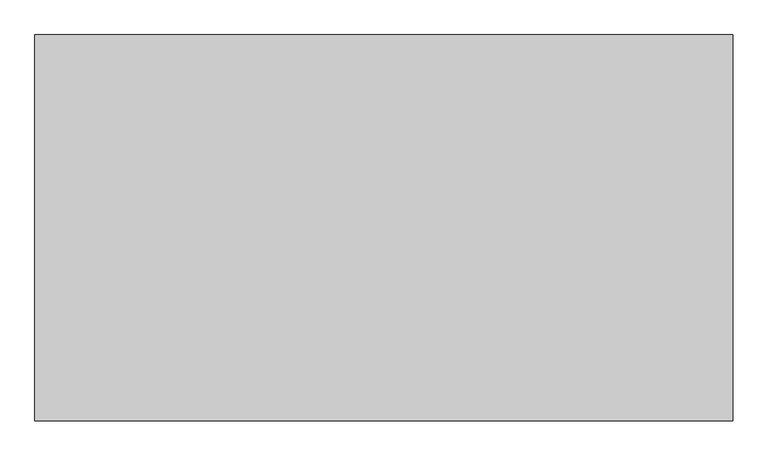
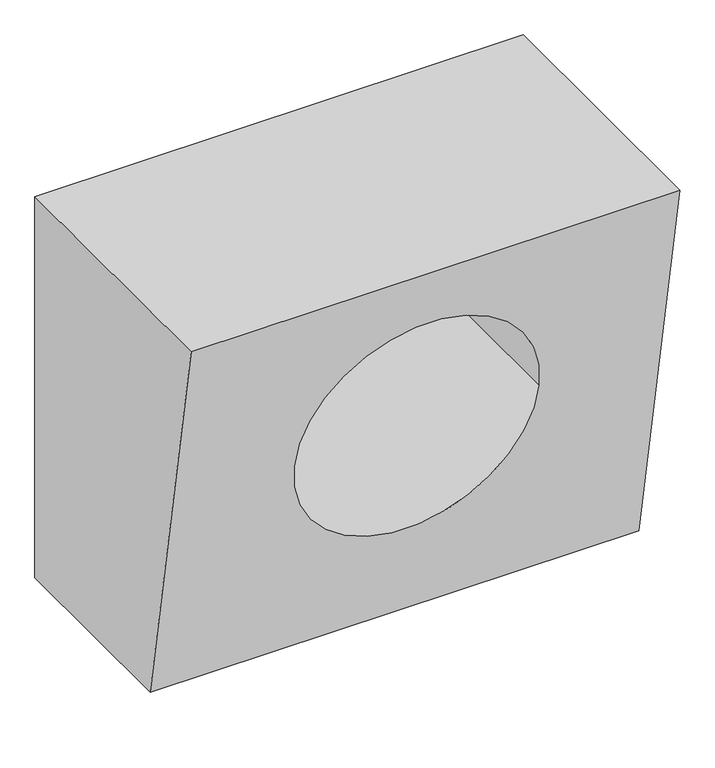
"""IFC4 building model written with IfcOpenShell, lengths in millimetres: proxy geometry, 族2 : 族2."""

import ifcopenshell
import ifcopenshell.guid

model = None  # the IFC model being written
_history = None  # IfcOwnerHistory: only IFC2X3 demands one
_inside = {}  # id of a spatial element -> (the spatial element, [elements in it])
_under = {}  # id of a project, library or spatial element -> (it, [spatial elements below it])
_declared = {}  # id of a project -> (the project, [libraries it declares])
_typed = {}  # id of a type object -> (the type object, [elements of that type])
_made_of = {}  # id of a material, layer set ... -> (it, [elements and type objects made of it])


def new_model(schema):
    """Start an empty IFC model of exactly this schema.

    Asked for "IFC4X3", IfcOpenShell would pick the latest addendum, in which some entities
    have other attributes; the version numbers below select the first issue.
    IFC2X3 requires an IfcOwnerHistory on every rooted entity: one is made here for all.
    """
    global model, _history
    if schema == "IFC4X3":
        model = ifcopenshell.file(schema_version=(4, 3, 0, 0))
    else:
        model = ifcopenshell.file(schema=schema)
    _inside.clear()
    _under.clear()
    _declared.clear()
    _typed.clear()
    _made_of.clear()
    _history = None
    if model.schema == "IFC2X3":
        org = make("IfcOrganization", Name="unknown")
        user = make(
            "IfcPersonAndOrganization",
            ThePerson=make("IfcPerson", FamilyName="unknown"),
            TheOrganization=org,
        )
        app = make(
            "IfcApplication",
            ApplicationDeveloper=org,
            Version="unknown",
            ApplicationFullName="unknown",
            ApplicationIdentifier="unknown",
        )
        _history = make(
            "IfcOwnerHistory",
            OwningUser=user,
            OwningApplication=app,
            ChangeAction="ADDED",
            CreationDate=0,
        )
    return model


def make(cls, **values):
    """One entity of the class cls with the attributes given. An attribute that is None is left unset."""
    return model.create_entity(
        cls, **{name: value for name, value in values.items() if value is not None}
    )


def rooted(cls, **values):
    """An entity with a GlobalId (a new one), such as an element, a storey or a relation."""
    return make(cls, GlobalId=ifcopenshell.guid.new(), OwnerHistory=_history, **values)


def si_unit(unit_type, name, prefix=None):
    """IfcSIUnit, for example si_unit("LENGTHUNIT", "METRE", prefix="MILLI")."""
    return make("IfcSIUnit", UnitType=unit_type, Prefix=prefix, Name=name)


def assignment(units):
    """IfcUnitAssignment: the units of a project."""
    return None if units is None else make("IfcUnitAssignment", Units=units)


def point(xyz):
    """IfcCartesianPoint."""
    return None if xyz is None else make("IfcCartesianPoint", Coordinates=xyz)


def direction(xyz):
    """IfcDirection."""
    return None if xyz is None else make("IfcDirection", DirectionRatios=xyz)


def frame(location, z_axis=None, x_axis=None):
    """IfcAxis2Placement3D, a coordinate frame: its origin and axes. An axis left out is left unset."""
    return make(
        "IfcAxis2Placement3D",
        Location=point(location),
        Axis=direction(z_axis),
        RefDirection=direction(x_axis),
    )


def origin():
    """The frame at (0, 0, 0) with its axes left unset."""
    return frame((0.0, 0.0, 0.0))


def place(relative_to, where):
    """IfcLocalPlacement: puts the frame where relative to a parent placement (None: the world)."""
    return make(
        "IfcLocalPlacement", PlacementRelTo=relative_to, RelativePlacement=where
    )


def context(
    kind, dimensions, precision=None, world=None, true_north=None, identifier=None
):
    """IfcGeometricRepresentationContext, for example the 3D "Model" context."""
    return make(
        "IfcGeometricRepresentationContext",
        ContextIdentifier=identifier,
        ContextType=kind,
        CoordinateSpaceDimension=dimensions,
        Precision=precision,
        WorldCoordinateSystem=world,
        TrueNorth=true_north,
    )


def project(units=None, contexts=None):
    """IfcProject with its units and contexts."""
    return rooted(
        "IfcProject",
        Name="project",
        RepresentationContexts=contexts,
        UnitsInContext=assignment(units),
    )


def spatial(cls, under=None, at=None, **own):
    """A site, building, storey or space (cls), placed at a placement, below another one or the project."""
    s = rooted(cls, ObjectPlacement=at, **own)
    if under is not None:
        _under.setdefault(under.id(), (under, []))[1].append(s)
    return s


def polyline(points):
    """IfcPolyline through the points."""
    return make("IfcPolyline", Points=[point(p) for p in points])


def circle_curve(where, radius):
    """IfcCircle in the frame where."""
    return make("IfcCircle", Position=where, Radius=radius)


def ellipse_curve(where, semi_axis1, semi_axis2):
    """IfcEllipse in the frame where."""
    return make(
        "IfcEllipse", Position=where, SemiAxis1=semi_axis1, SemiAxis2=semi_axis2
    )


def shape(context_of_items, identifier, shape_type, items):
    """IfcShapeRepresentation: the items that make up one representation, for example the "Body"."""
    return make(
        "IfcShapeRepresentation",
        ContextOfItems=context_of_items,
        RepresentationIdentifier=identifier,
        RepresentationType=shape_type,
        Items=items,
    )


def source(mapping_origin, context_of_items, identifier, shape_type, items):
    """IfcRepresentationMap: a shape defined once, which mapped items show again and again."""
    return make(
        "IfcRepresentationMap",
        MappingOrigin=mapping_origin,
        MappedRepresentation=shape(context_of_items, identifier, shape_type, items),
    )


def transform(
    local_origin,
    x_axis=None,
    y_axis=None,
    z_axis=None,
    scale=None,
    scale2=None,
    scale3=None,
    uniform=True,
):
    """IfcCartesianTransformationOperator3D, or its non-uniform kind. x_axis, y_axis, z_axis: its Axis1, 2, 3."""
    if uniform:
        return make(
            "IfcCartesianTransformationOperator3D",
            Axis1=direction(x_axis),
            Axis2=direction(y_axis),
            LocalOrigin=point(local_origin),
            Scale=scale,
            Axis3=direction(z_axis),
        )
    return make(
        "IfcCartesianTransformationOperator3DnonUniform",
        Axis1=direction(x_axis),
        Axis2=direction(y_axis),
        LocalOrigin=point(local_origin),
        Scale=scale,
        Axis3=direction(z_axis),
        Scale2=scale2,
        Scale3=scale3,
    )


def mapped(mapping_source, mapping_target):
    """IfcMappedItem: shows the shape of a source again, moved by a transform."""
    return make(
        "IfcMappedItem", MappingSource=mapping_source, MappingTarget=mapping_target
    )


def made_of(thing, what):
    """Note that an element or type object is made of a material, layer set ...; save() writes the relation."""
    if what is not None:
        _made_of.setdefault(what.id(), (what, []))[1].append(thing)
    return thing


def element(
    cls,
    number,
    at=None,
    inside=None,
    cuts=None,
    type_object=None,
    material=None,
    context=None,
    identifier="Body",
    shape_type=None,
    held_by="IfcProductDefinitionShape",
    body=None,
    shapes=None,
    **own,
):
    """One element of the class cls, such as IfcWall. Its Tag is "e" and its number.

    at: its placement. inside: the storey or other place that contains it. cuts: it is an
    opening in that element (IfcRelVoidsElement). A single representation is given by context,
    identifier, shape_type and body (its items); several are given by shapes. held_by: the class
    of the entity that holds the representations. save() writes the other relations.
    """
    e = rooted(cls, Tag="e%d" % number, ObjectPlacement=at, **own)
    if body is not None:
        shapes = [shape(context, identifier, shape_type, body)]
    if shapes is not None:
        e.Representation = make(held_by, Representations=shapes)
    if inside is not None:
        _inside.setdefault(inside.id(), (inside, []))[1].append(e)
    if cuts is not None:
        rooted(
            "IfcRelVoidsElement", RelatingBuildingElement=cuts, RelatedOpeningElement=e
        )
    if type_object is not None:
        _typed.setdefault(type_object.id(), (type_object, []))[1].append(e)
    return made_of(e, material)


def aggregate(whole, parts):
    """IfcRelAggregates: a whole, such as a stair, and the parts it consists of."""
    return rooted("IfcRelAggregates", RelatingObject=whole, RelatedObjects=parts)


def save(model, path):
    """Write the relations noted so far, then the file.

    IfcRelAggregates (storeys below a building ...), IfcRelContainedInSpatialStructure (elements
    in a storey), IfcRelDefinesByType, IfcRelAssociatesMaterial and IfcRelDeclares: one each for
    every whole, place, type object, material and project.
    """
    for whole, parts in _under.values():
        aggregate(whole, parts)
    for where, things in _inside.values():
        rooted(
            "IfcRelContainedInSpatialStructure",
            RelatedElements=things,
            RelatingStructure=where,
        )
    for kind, things in _typed.values():
        rooted("IfcRelDefinesByType", RelatedObjects=things, RelatingType=kind)
    for what, things in _made_of.values():
        rooted("IfcRelAssociatesMaterial", RelatedObjects=things, RelatingMaterial=what)
    for by, libraries in _declared.values():
        rooted("IfcRelDeclares", RelatingContext=by, RelatedDefinitions=libraries)
    model.write(path)


def plane_surface(at):
    """IfcPlane: the flat surface through the origin of the frame at, square to its z axis."""
    return make("IfcPlane", Position=at)


def revolved_surface(curve, axis_point, axis_direction):
    """IfcSurfaceOfRevolution: the curve turned about the line through axis_point along axis_direction."""
    return make(
        "IfcSurfaceOfRevolution",
        SweptCurve=make("IfcArbitraryOpenProfileDef", ProfileType="CURVE", Curve=curve),
        AxisPosition=make("IfcAxis1Placement", Location=point(axis_point), Axis=direction(axis_direction)),
    )


def advanced_brep(points, edges, surfaces, faces):
    """IfcAdvancedBrep: a solid bounded by faces that lie on surfaces and meet in shared edges.

    An edge is (start, end): straight between two places in points (the first is 0);
    or (start, end, curve); or (start, end, curve, False) where it runs against its curve.
    A face is (place in surfaces, loops), or (place, loops, False) where it looks against
    its surface's normal. A loop lists edges by number (the first is 1), with a minus sign
    where the edge is run from its end to its start. The first loop is the outer one.
    """
    corners = [point(p) for p in points]
    vertices = [make("IfcVertexPoint", VertexGeometry=c) for c in corners]
    made = []
    for start, end, *more in edges:
        made.append(
            make(
                "IfcEdgeCurve",
                EdgeStart=vertices[start],
                EdgeEnd=vertices[end],
                EdgeGeometry=more[0] if more else make("IfcPolyline", Points=[corners[start], corners[end]]),
                SameSense=more[1] if len(more) > 1 else True,
            )
        )
    hull = []
    for where, loops, *sense in faces:
        bounds = []
        for j, loop in enumerate(loops):
            ring = [make("IfcOrientedEdge", EdgeElement=made[abs(k) - 1], Orientation=k > 0) for k in loop]
            bounds.append(
                make(
                    "IfcFaceOuterBound" if j == 0 else "IfcFaceBound",
                    Bound=make("IfcEdgeLoop", EdgeList=ring),
                    Orientation=True,
                )
            )
        hull.append(make("IfcAdvancedFace", Bounds=bounds, FaceSurface=surfaces[where], SameSense=sense[0] if sense else True))
    return make("IfcAdvancedBrep", Outer=make("IfcClosedShell", CfsFaces=hull))


def generic_models_4f16b905(model_context):
    return source(origin(), model_context, "Body", "AdvancedBrep", [
        advanced_brep(
        [(2000.0, 1632.5437807, 3300.0), (2000.0, 1632.5437807, 0.0), (-2000.0, 1632.5437807, 0.0), (-2000.0, 1632.5437807, 3300.0), (-1000.0, 1632.5437807, 1800.0), (1000.0, 1632.5437807, 1800.0), (-2000.0, -581.8790363, 3300.0), (2000.0, -581.8790363, 3300.0), (-2000.0, 0.0, 0.0), (2000.0, 0.0, 0.0), (-1000.0, -317.3885653, 1800.0), (1000.0, -317.3885653, 1800.0)],
        [
            (0, 1),
            (1, 2),
            (2, 3),
            (3, 0),
            (4, 5, circle_curve(frame((0.0, 1632.5437807, 1800.0), z_axis=(0.0, -1.0, 0.0), x_axis=(1.0, 0.0, 0.0)), 1000.0)),
            (5, 4, circle_curve(frame((0.0, 1632.5437807, 1800.0), z_axis=(0.0, -1.0, 0.0), x_axis=(1.0, 0.0, 0.0)), 1000.0)),
            (3, 6),
            (6, 7),
            (7, 0),
            (2, 8),
            (8, 6),
            (1, 9),
            (9, 8),
            (7, 9),
            (4, 10),
            (10, 11, ellipse_curve(frame((0.0, -317.3885653, 1800.0), z_axis=(0.0, -0.9848077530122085, -0.1736481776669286), x_axis=(0.0, -0.17364817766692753, 0.9848077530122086)), 1015.4266119, 1000.0)),
            (11, 5),
            (11, 10, ellipse_curve(frame((0.0, -317.3885653, 1800.0), z_axis=(0.0, -0.9848077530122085, -0.1736481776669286), x_axis=(0.0, -0.17364817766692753, 0.9848077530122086)), 1015.4266119, 1000.0)),
        ],
        [
            plane_surface(frame((-2000.0, 1632.5437807, 3300.0), z_axis=(0.0, 1.0, 0.0), x_axis=(1.0, 0.0, 0.0))),
            plane_surface(frame((2000.0, -2022.8148154, 3300.0), z_axis=(0.0, 0.0, 1.0), x_axis=(0.0, 1.0, 0.0))),
            plane_surface(frame((-2000.0, -2022.8148154, 3300.0), z_axis=(-1.0, 0.0, 0.0), x_axis=(0.0, 1.0, 0.0))),
            plane_surface(frame((-2000.0, -2022.8148154, 0.0), z_axis=(0.0, 0.0, -1.0), x_axis=(0.0, 1.0, 0.0))),
            plane_surface(frame((2000.0, -2022.8148154, 0.0), z_axis=(1.0, 0.0, 0.0), x_axis=(0.0, 1.0, 0.0))),
            revolved_surface(polyline([(1000.0, -493.71554601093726, 1800.0), (1000.0, 1632.5437807, 1800.0)]), (0.0, 1944.5788295, 1800.0), (0.0, -1.0, 0.0)),
            plane_surface(frame((2080.5519718, 0.0, 0.0), z_axis=(0.0, -0.9848077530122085, -0.1736481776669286), x_axis=(-1.0, 0.0, 0.0))),
        ],
        [
            (0, [[1, 2, 3, 4], [5, 6]]),
            (1, [[-4, 7, 8, 9]]),
            (2, [[-3, 10, 11, -7]]),
            (3, [[-2, 12, 13, -10]]),
            (4, [[-1, -9, 14, -12]]),
            (5, [[-5, 15, 16, 17]]),
            (5, [[-6, -17, 18, -15]]),
            (6, [[-8, -11, -13, -14], [-16, -18]]),
        ],
    ),
    ])


if __name__ == "__main__":
    model = new_model("IFC4")
    model_context = context("Model", 3, world=origin())
    ifc_project = project(units=[si_unit("LENGTHUNIT", "METRE", prefix="MILLI")], contexts=[model_context])
    site = spatial("IfcSite", under=ifc_project)
    building = spatial("IfcBuilding", under=site)
    placement = place(None, origin())
    generic_models_shape = generic_models_4f16b905(model_context)
    element("IfcBuildingElementProxy", 1, Name="族2 : 族2", ObjectType="族2 : 族2", at=placement, inside=building, context=model_context, shape_type="MappedRepresentation", body=[
        mapped(generic_models_shape, transform((0.0, 0.0, 0.0), x_axis=(1.0, 0.0, 0.0), y_axis=(0.0, 1.0, 0.0), z_axis=(0.0, 0.0, 1.0))),
    ])
    save(model, "model.ifc")
